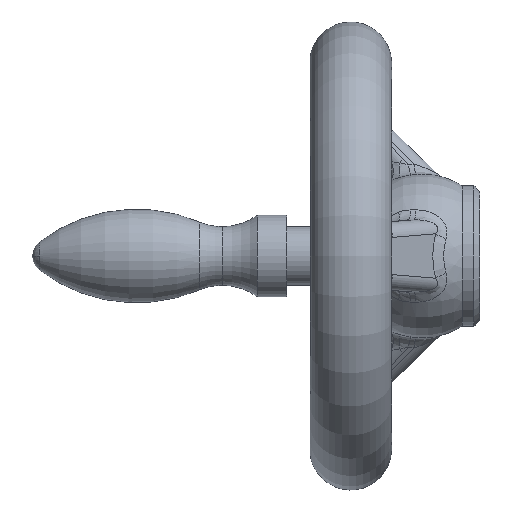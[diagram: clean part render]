
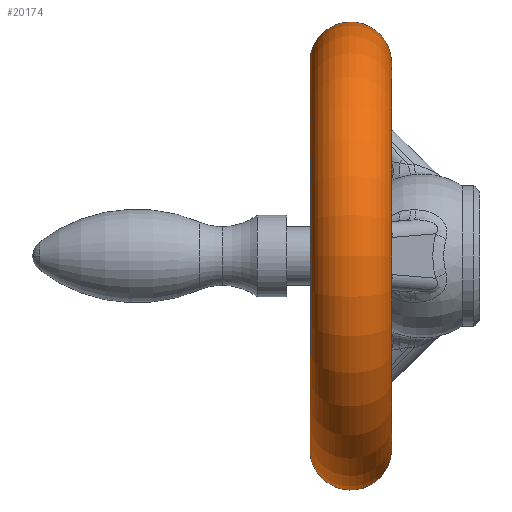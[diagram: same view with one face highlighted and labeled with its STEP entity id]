
A CAD part, left-side view. The second image highlights one B-rep face of the part: STEP entity #20174.
In plain terms, the highlighted toroidal (fillet/blend) face has major radius 33 mm and minor radius 7 mm.
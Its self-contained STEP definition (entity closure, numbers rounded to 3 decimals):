
#506 = ORIENTED_EDGE ( 'NONE', *, *, #2571, .F. ) ;
#2348 = VERTEX_POINT ( 'NONE', #7854 ) ;
#2351 = VERTEX_POINT ( 'NONE', #7874 ) ;
#2445 = VERTEX_POINT ( 'NONE', #8359 ) ;
#2571 = EDGE_CURVE ( 'NONE', #2351, #2348, #8914, .T. ) ;
#2646 = EDGE_CURVE ( 'NONE', #2708, #2351, #10417, .T. ) ;
#2665 = EDGE_CURVE ( 'NONE', #2708, #2445, #10753, .T. ) ;
#2695 = EDGE_CURVE ( 'NONE', #2445, #2348, #11009, .T. ) ;
#2708 = VERTEX_POINT ( 'NONE', #11008 ) ;
#7854 = CARTESIAN_POINT ( 'NONE',  ( 0., 15.076, -33.25 ) ) ;
#7874 = CARTESIAN_POINT ( 'NONE',  ( 0., 15.076, 33.25 ) ) ;
#8359 = CARTESIAN_POINT ( 'NONE',  ( 0., 29., -34. ) ) ;
#8914 = CIRCLE ( 'NONE', #8928, 33.25 ) ;
#8926 = DIRECTION ( 'NONE',  ( 0., 0., -1. ) ) ;
#8927 = DIRECTION ( 'NONE',  ( 0., -1., 0. ) ) ;
#8928 = AXIS2_PLACEMENT_3D ( 'NONE', #8929, #8927, #8926 ) ;
#8929 = CARTESIAN_POINT ( 'NONE',  ( 0., 15.076, 0. ) ) ;
#10417 = CIRCLE ( 'NONE', #10746, 7. ) ;
#10741 = DIRECTION ( 'NONE',  ( 0., 0., -1. ) ) ;
#10743 = DIRECTION ( 'NONE',  ( 1., 0., 0. ) ) ;
#10744 = CARTESIAN_POINT ( 'NONE',  ( 0., 22.072, 33. ) ) ;
#10746 = AXIS2_PLACEMENT_3D ( 'NONE', #10744, #10743, #10741 ) ;
#10753 = CIRCLE ( 'NONE', #10953, 34. ) ;
#10950 = DIRECTION ( 'NONE',  ( 0., 0., -1. ) ) ;
#10951 = DIRECTION ( 'NONE',  ( 0., -1., 0. ) ) ;
#10952 = CARTESIAN_POINT ( 'NONE',  ( 0., 29., 0. ) ) ;
#10953 = AXIS2_PLACEMENT_3D ( 'NONE', #10952, #10951, #10950 ) ;
#10994 = DIRECTION ( 'NONE',  ( 0., 0., 1. ) ) ;
#10995 = DIRECTION ( 'NONE',  ( -1., 0., 0. ) ) ;
#10998 = CARTESIAN_POINT ( 'NONE',  ( 0., 22.072, -33. ) ) ;
#11000 = AXIS2_PLACEMENT_3D ( 'NONE', #10998, #10995, #10994 ) ;
#11008 = CARTESIAN_POINT ( 'NONE',  ( 0., 29., 34. ) ) ;
#11009 = CIRCLE ( 'NONE', #11000, 7. ) ;
#14751 = DIRECTION ( 'NONE',  ( 0., 0., -1. ) ) ;
#14753 = DIRECTION ( 'NONE',  ( 0., -1., 0. ) ) ;
#14754 = CARTESIAN_POINT ( 'NONE',  ( 0., 22.072, 0. ) ) ;
#14755 = AXIS2_PLACEMENT_3D ( 'NONE', #14754, #14753, #14751 ) ;
#14762 = TOROIDAL_SURFACE ( 'NONE', #14755, 33., 7. ) ;
#14765 = FACE_OUTER_BOUND ( 'NONE', #20554, .T. ) ;
#19695 = ORIENTED_EDGE ( 'NONE', *, *, #2695, .T. ) ;
#20173 = ORIENTED_EDGE ( 'NONE', *, *, #2665, .T. ) ;
#20174 = ADVANCED_FACE ( 'NONE', ( #14765 ), #14762, .T. ) ;
#20539 = ORIENTED_EDGE ( 'NONE', *, *, #2646, .F. ) ;
#20554 = EDGE_LOOP ( 'NONE', ( #20539, #20173, #19695, #506 ) ) ;
